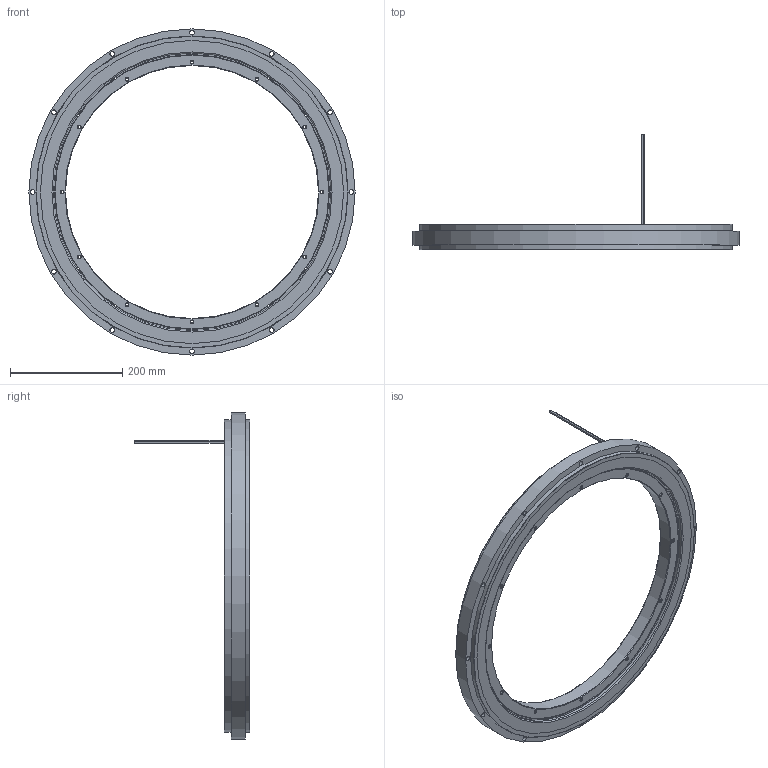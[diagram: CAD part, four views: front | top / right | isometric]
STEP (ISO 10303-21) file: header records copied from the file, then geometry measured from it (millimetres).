
FILE_DESCRIPTION(('STEP AP214'), '1');
FILE_NAME('楋樏襝鍱睯蜬蠈錪', '', ('UNSPECIFIED'), ('UNSPECIFIED'), 'C3D Converter', 'C3D Toolkit', '');
FILE_SCHEMA(('AUTOMOTIVE_DESIGN { 1 0 10303 214 3 1 1}'));
Length unit declared in the file: millimetre
Products named in the file (3): МАНП.684252.020; МАНП.684222.023
Assembly tree (2 placements, depth 2):
  (unnamed)
    МАНП.684252.020
    МАНП.684222.023
Bounding box: 580 x 205 x 580 mm (x, y, z)
Volume: 3458617.3 mm3; surface area: 447136.1 mm2
Topology: 5 solids, 5 shells, 86 faces, 177 edges, 107 vertices
Faces by surface type: cylinder 37, cone 26, plane 16, torus 7
Full cylindrical faces by diameter (mm): 2.6 x3, 4.917 x12, 8.4 x12, 450 x1, 487.4 x1, 489 x1, 494 x2, 539 x2, 555 x2, 580 x1
Entity records: 2902 total; most frequent: DIRECTION 392, CARTESIAN_POINT 303, EDGE_LOOP 214, ORIENTED_EDGE 214, AXIS2_PLACEMENT_3D 196, FACE_OUTER_BOUND 140, EDGE_CURVE 107, VERTEX_POINT 107
